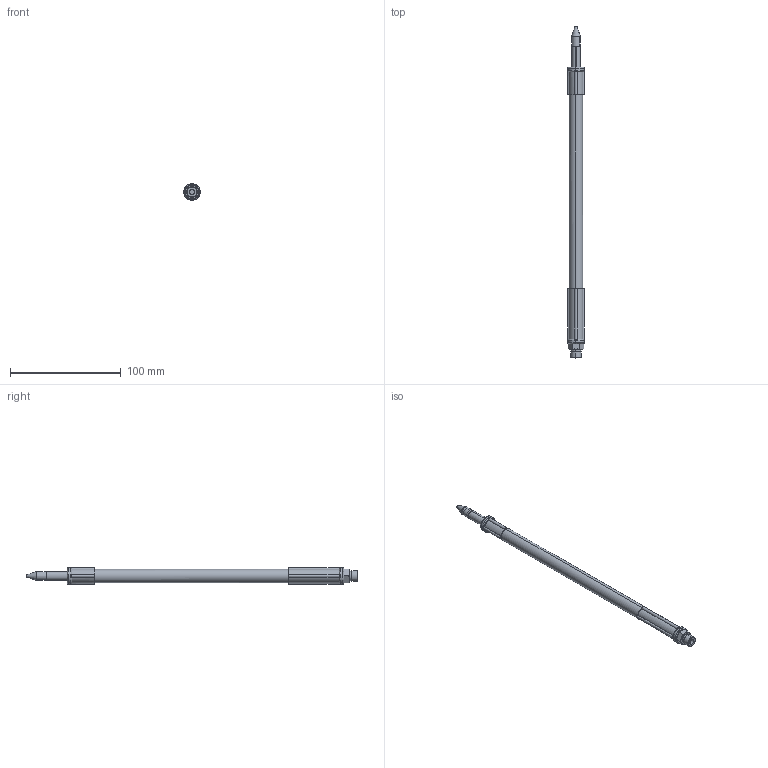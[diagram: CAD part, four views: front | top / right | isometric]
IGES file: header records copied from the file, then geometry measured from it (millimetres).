
Start section: SolidWorks IGES file using analytic representation for surfaces
Global section: file name: P:\SILVENT AB\ENGINEERING\Drawings\Övrigt\IGES\Silvent 630.IGS; native system: SolidWorks 2011; preprocessor: SolidWorks 2011; author: p.svensson; date: 130313.084427; units: millimetre
Bounding box: 15 x 300.3 x 15 mm (x, y, z)
Surface area: 16629.4 mm2 (no closed solid volume)
Topology: 0 solids, 0 shells, 133 faces, 1686 edges, 1677 vertices
Faces by surface type: revolution 72, bspline 61
